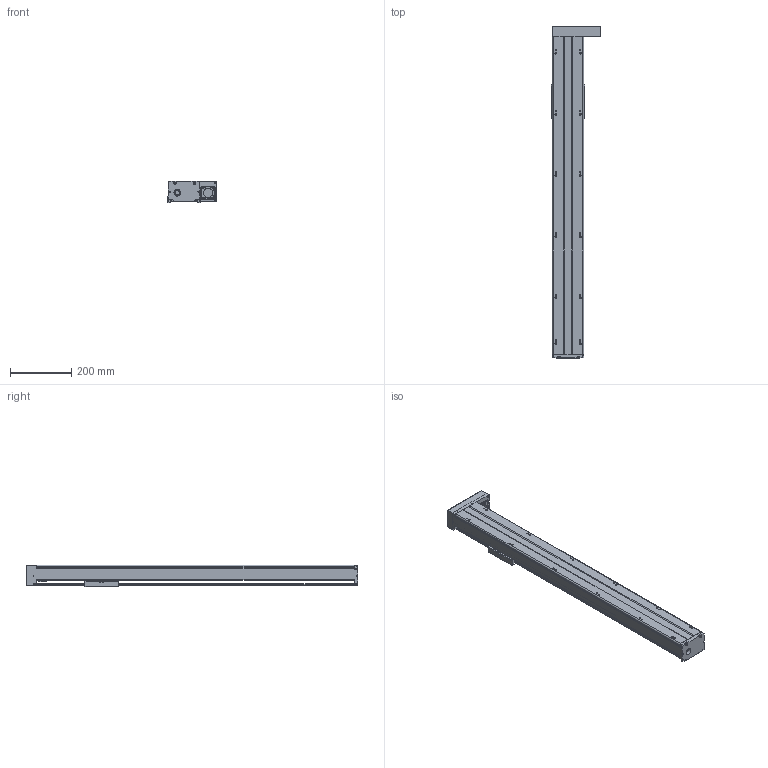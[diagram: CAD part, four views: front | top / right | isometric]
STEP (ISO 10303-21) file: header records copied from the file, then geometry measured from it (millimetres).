
FILE_DESCRIPTION(/* description */ (''),/* implementation_level */ '2;1');
FILE_NAME(/* name */ 'TKA100-FR-850_asm1.stp',/* time_stamp */ '2016-05-17T15:47:00+08:00',/* author */ (''),/* organization */ (''),/* preprocessor_version */ 'ST-DEVELOPER v15',/* originating_system */ 'SIEMENS PLM Software NX 8.5',/* authorisation */ '');
FILE_SCHEMA (('AUTOMOTIVE_DESIGN { 1 0 10303 214 3 1 1 1 }'));
Length unit declared in the file: millimetre
Products named in the file (3): 200-2; 200-1; TKA100-FR-850_asm1
Assembly tree (2 placements, depth 2):
  TKA100-FR-850_asm1
    200-1
    200-2
Bounding box: 162 x 1086 x 71 mm (x, y, z)
Volume: 2271571.7 mm3; surface area: 774207.3 mm2
Topology: 2 solids, 16 shells, 808 faces, 2105 edges, 1374 vertices
Faces by surface type: plane 324, cylinder 307, cone 123, torus 28, bspline 26
Full cylindrical faces by diameter (mm): 2.5 x6, 2.6 x8, 3.3 x11, 3.4 x4, 3.8 x8, 4.2 x21, 4.3 x4, 4.5 x6, 5 x2, 5.5 x20, 6.6 x4, 8 x4, 9 x6, 10 x13, 11 x4, 12 x6, 15.3 x1, 16 x1, 22 x1, 24 x1, 28 x2, 30 x1, 33 x1
Entity records: 29352 total; most frequent: CARTESIAN_POINT 10670, DIRECTION 3833, ORIENTED_EDGE 3616, EDGE_CURVE 1808, AXIS2_PLACEMENT_3D 1517, VERTEX_POINT 1286, EDGE_LOOP 1119, ADVANCED_FACE 808
